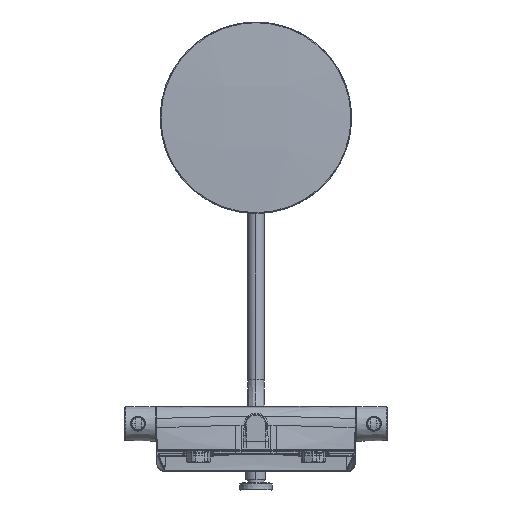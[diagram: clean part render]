
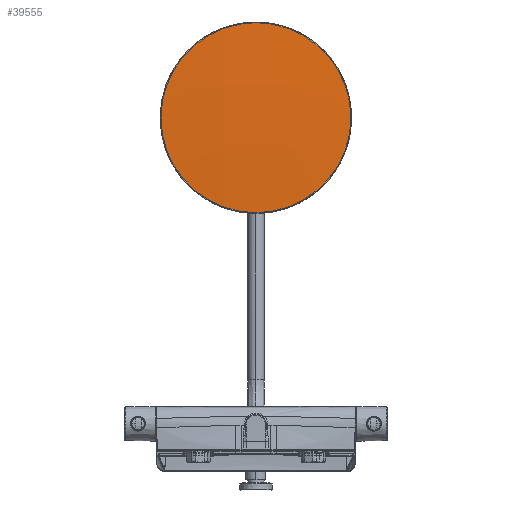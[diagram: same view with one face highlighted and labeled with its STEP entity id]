
A CAD part, front view. The second image highlights one B-rep face of the part: STEP entity #39555.
In plain terms, the highlighted free-form (B-spline) face has degree [3, 3] with [4, 4] control points.
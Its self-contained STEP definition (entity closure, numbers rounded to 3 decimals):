
#545 = DIRECTION ( 'NONE',  ( 0., -1., 0.017 ) ) ;
#3089 = CARTESIAN_POINT ( 'NONE',  ( -125.531, 85.578, 350.715 ) ) ;
#3291 = FACE_OUTER_BOUND ( 'NONE', #32368, .T. ) ;
#3754 =( BOUNDED_SURFACE ( )  B_SPLINE_SURFACE ( 3, 3, ( 
 ( #15788, #9349, #6311, #32538 ),
 ( #29358, #19108, #32679, #19544 ),
 ( #32392, #39051, #42405, #38916 ),
 ( #19254, #35864, #12631, #3089 ) ),
 .UNSPECIFIED., .F., .F., .F. ) 
 B_SPLINE_SURFACE_WITH_KNOTS ( ( 4, 4 ),
 ( 4, 4 ),
 ( 0., 1. ),
 ( 0., 1. ),
 .UNSPECIFIED. ) 
 GEOMETRIC_REPRESENTATION_ITEM ( )  RATIONAL_B_SPLINE_SURFACE ( (
 ( 1., 0.999, 0.999, 1.),
 ( 0.999, 0.998, 0.998, 0.999),
 ( 0.999, 0.998, 0.998, 0.999),
 ( 1., 0.999, 0.999, 1.) ) ) 
 REPRESENTATION_ITEM ( '' )  SURFACE ( )  );
#4643 = AXIS2_PLACEMENT_3D ( 'NONE', #13671, #545, #23498 ) ;
#5436 = DIRECTION ( 'NONE',  ( -1., 0., 0. ) ) ;
#6311 = CARTESIAN_POINT ( 'NONE',  ( 126.279, 83.015, 434.795 ) ) ;
#9349 = CARTESIAN_POINT ( 'NONE',  ( 126.279, 84.491, 518.901 ) ) ;
#12631 = CARTESIAN_POINT ( 'NONE',  ( -125.531, 82.978, 434.795 ) ) ;
#13671 = CARTESIAN_POINT ( 'NONE',  ( 0., 84.66, 476.565 ) ) ;
#13915 = EDGE_CURVE ( 'NONE', #29755, #21651, #35158, .T. ) ;
#14994 = CARTESIAN_POINT ( 'NONE',  ( 124.039, 84.66, 476.565 ) ) ;
#15788 = CARTESIAN_POINT ( 'NONE',  ( 126.279, 90.041, 602.836 ) ) ;
#15802 = ORIENTED_EDGE ( 'NONE', *, *, #13915, .T. ) ;
#16008 = ORIENTED_EDGE ( 'NONE', *, *, #39761, .T. ) ;
#16216 = CIRCLE ( 'NONE', #25623, 124.039 ) ;
#19108 = CARTESIAN_POINT ( 'NONE',  ( 42.375, 80.421, 519.038 ) ) ;
#19254 = CARTESIAN_POINT ( 'NONE',  ( -125.531, 90.005, 602.838 ) ) ;
#19544 = CARTESIAN_POINT ( 'NONE',  ( 42.375, 81.545, 350.591 ) ) ;
#21651 = VERTEX_POINT ( 'NONE', #14994 ) ;
#21844 = DIRECTION ( 'NONE',  ( 0., -1., 0.017 ) ) ;
#23498 = DIRECTION ( 'NONE',  ( -1., 0., 0. ) ) ;
#25623 = AXIS2_PLACEMENT_3D ( 'NONE', #38484, #21844, #5436 ) ;
#29358 = CARTESIAN_POINT ( 'NONE',  ( 42.375, 85.979, 603.105 ) ) ;
#29558 = CARTESIAN_POINT ( 'NONE',  ( -124.039, 84.66, 476.565 ) ) ;
#29755 = VERTEX_POINT ( 'NONE', #29558 ) ;
#32368 = EDGE_LOOP ( 'NONE', ( #15802, #16008 ) ) ;
#32392 = CARTESIAN_POINT ( 'NONE',  ( -41.627, 85.966, 603.105 ) ) ;
#32538 = CARTESIAN_POINT ( 'NONE',  ( 126.279, 85.614, 350.716 ) ) ;
#32679 = CARTESIAN_POINT ( 'NONE',  ( 42.375, 78.942, 434.801 ) ) ;
#35158 = CIRCLE ( 'NONE', #4643, 124.039 ) ;
#35864 = CARTESIAN_POINT ( 'NONE',  ( -125.531, 84.455, 518.902 ) ) ;
#38484 = CARTESIAN_POINT ( 'NONE',  ( 0., 84.66, 476.565 ) ) ;
#38916 = CARTESIAN_POINT ( 'NONE',  ( -41.627, 81.533, 350.59 ) ) ;
#39051 = CARTESIAN_POINT ( 'NONE',  ( -41.627, 80.408, 519.038 ) ) ;
#39555 = ADVANCED_FACE ( 'NONE', ( #3291 ), #3754, .T. ) ;
#39761 = EDGE_CURVE ( 'NONE', #21651, #29755, #16216, .T. ) ;
#42405 = CARTESIAN_POINT ( 'NONE',  ( -41.627, 78.929, 434.801 ) ) ;
